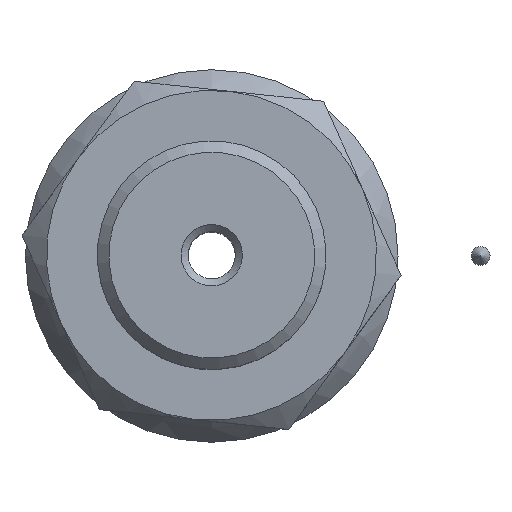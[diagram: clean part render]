
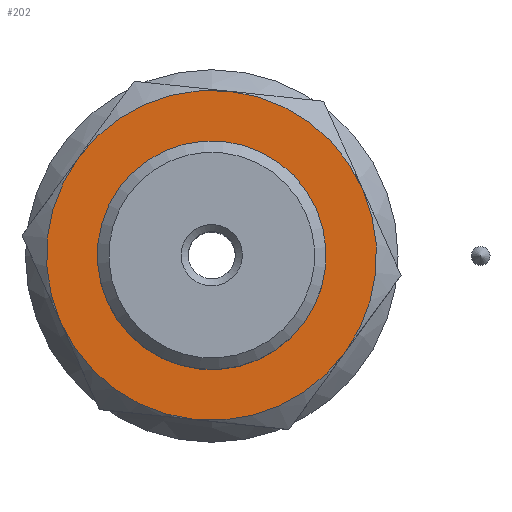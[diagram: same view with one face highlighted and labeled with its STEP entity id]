
A CAD part, top view. The second image highlights one B-rep face of the part: STEP entity #202.
In plain terms, the highlighted planar face has unit normal (0, 0, 1) as drawn and (0, 0, -1) by its records, which use the part's own axes.
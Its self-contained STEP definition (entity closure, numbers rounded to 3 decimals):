
#202=ADVANCED_FACE('',(#385,#386),#387,.F.);
#385=FACE_OUTER_BOUND('',#597,.T.);
#386=FACE_BOUND('',#598,.T.);
#387=PLANE('',#599);
#597=EDGE_LOOP('',(#934,#935,#936,#937,#938,#939));
#598=EDGE_LOOP('',(#940));
#599=AXIS2_PLACEMENT_3D('',#941,#942,#943);
#934=ORIENTED_EDGE('',*,*,#1172,.F.);
#935=ORIENTED_EDGE('',*,*,#1226,.F.);
#936=ORIENTED_EDGE('',*,*,#1183,.F.);
#937=ORIENTED_EDGE('',*,*,#1202,.F.);
#938=ORIENTED_EDGE('',*,*,#1195,.F.);
#939=ORIENTED_EDGE('',*,*,#1227,.F.);
#940=ORIENTED_EDGE('',*,*,#1228,.F.);
#941=CARTESIAN_POINT('',(-8.5,-0.01,0.0));
#942=DIRECTION('',(0.0,0.0,1.0));
#943=DIRECTION('',(1.0,0.0,0.0));
#1172=EDGE_CURVE('',#1312,#1309,#1314,.T.);
#1183=EDGE_CURVE('',#1331,#1328,#1333,.T.);
#1195=EDGE_CURVE('',#1302,#1348,#1350,.T.);
#1202=EDGE_CURVE('',#1348,#1331,#1360,.T.);
#1226=EDGE_CURVE('',#1328,#1312,#1395,.T.);
#1227=EDGE_CURVE('',#1309,#1302,#1396,.T.);
#1228=EDGE_CURVE('',#1397,#1397,#1398,.T.);
#1302=VERTEX_POINT('',#1513);
#1309=VERTEX_POINT('',#1545);
#1312=VERTEX_POINT('',#1559);
#1314=CIRCLE('',#1573,7.0);
#1328=VERTEX_POINT('',#1614);
#1331=VERTEX_POINT('',#1628);
#1333=CIRCLE('',#1642,7.0);
#1348=VERTEX_POINT('',#1691);
#1350=CIRCLE('',#1704,7.0);
#1360=CIRCLE('',#1735,7.0);
#1395=CIRCLE('',#1790,7.0);
#1396=CIRCLE('',#1791,7.0);
#1397=VERTEX_POINT('',#1792);
#1398=CIRCLE('',#1793,4.0);
#1513=CARTESIAN_POINT('',(-6.062,3.5,0.0));
#1545=CARTESIAN_POINT('',(0.0,7.0,0.0));
#1559=CARTESIAN_POINT('',(6.062,3.5,0.0));
#1573=AXIS2_PLACEMENT_3D('',#1899,#1900,#1901);
#1614=CARTESIAN_POINT('',(6.062,-3.5,0.0));
#1628=CARTESIAN_POINT('',(0.0,-7.0,0.0));
#1642=AXIS2_PLACEMENT_3D('',#1905,#1906,#1907);
#1691=CARTESIAN_POINT('',(-6.062,-3.5,0.0));
#1704=AXIS2_PLACEMENT_3D('',#1913,#1914,#1915);
#1735=AXIS2_PLACEMENT_3D('',#1918,#1919,#1920);
#1790=AXIS2_PLACEMENT_3D('',#1959,#1960,#1961);
#1791=AXIS2_PLACEMENT_3D('',#1962,#1963,#1964);
#1792=CARTESIAN_POINT('',(-4.0,-0.01,0.0));
#1793=AXIS2_PLACEMENT_3D('',#1965,#1966,#1967);
#1899=CARTESIAN_POINT('',(0.0,0.0,0.0));
#1900=DIRECTION('',(0.0,0.0,1.0));
#1901=DIRECTION('',(1.0,0.0,0.0));
#1905=CARTESIAN_POINT('',(0.0,0.0,0.0));
#1906=DIRECTION('',(0.0,0.0,1.0));
#1907=DIRECTION('',(1.0,0.0,0.0));
#1913=CARTESIAN_POINT('',(0.0,0.0,0.0));
#1914=DIRECTION('',(0.0,0.0,1.0));
#1915=DIRECTION('',(1.0,0.0,0.0));
#1918=CARTESIAN_POINT('',(0.0,0.0,0.0));
#1919=DIRECTION('',(0.0,0.0,1.0));
#1920=DIRECTION('',(1.0,0.0,0.0));
#1959=CARTESIAN_POINT('',(0.0,0.0,0.0));
#1960=DIRECTION('',(0.0,0.0,1.0));
#1961=DIRECTION('',(1.0,0.0,0.0));
#1962=CARTESIAN_POINT('',(0.0,0.0,0.0));
#1963=DIRECTION('',(0.0,0.0,1.0));
#1964=DIRECTION('',(1.0,0.0,0.0));
#1965=CARTESIAN_POINT('',(0.0,-0.01,0.0));
#1966=DIRECTION('',(0.0,0.0,-1.0));
#1967=DIRECTION('',(-1.0,0.0,0.0));
